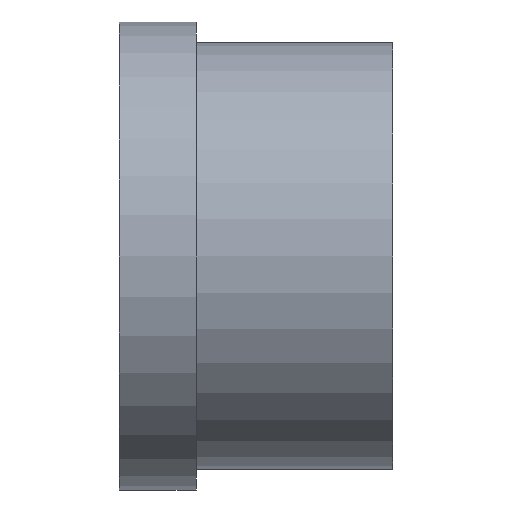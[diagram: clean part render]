
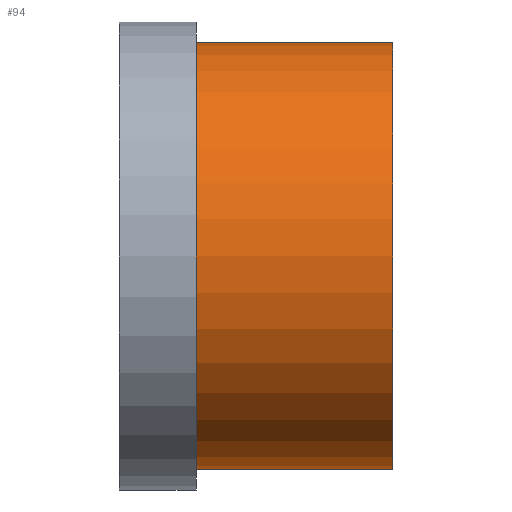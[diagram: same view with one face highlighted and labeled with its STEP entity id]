
A CAD part, front view. The second image highlights one B-rep face of the part: STEP entity #94.
In plain terms, the highlighted cylindrical face has radius 125 mm (diameter 250 mm), a full revolution.
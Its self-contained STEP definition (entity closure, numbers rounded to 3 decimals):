
#13=CYLINDRICAL_SURFACE($,#109,125.);
#23=FACE_BOUND($,#41,.T.);
#30=FACE_OUTER_BOUND($,#40,.T.);
#40=EDGE_LOOP($,(#75));
#41=EDGE_LOOP($,(#76));
#50=CIRCLE($,#108,125.);
#51=CIRCLE($,#110,125.);
#57=VERTEX_POINT($,#157);
#58=VERTEX_POINT($,#160);
#64=EDGE_CURVE($,#57,#57,#50,.T.);
#65=EDGE_CURVE($,#58,#58,#51,.T.);
#75=ORIENTED_EDGE($,*,*,#65,.F.);
#76=ORIENTED_EDGE($,*,*,#64,.T.);
#94=ADVANCED_FACE($,(#30,#23),#13,.T.);
#108=AXIS2_PLACEMENT_3D($,#158,#132,#133);
#109=AXIS2_PLACEMENT_3D($,#159,#134,#135);
#110=AXIS2_PLACEMENT_3D($,#161,#136,#137);
#132=DIRECTION('center_axis',(1.,0.,0.));
#133=DIRECTION('ref_axis',(0.,1.,0.));
#134=DIRECTION('center_axis',(1.,0.,0.));
#135=DIRECTION('ref_axis',(0.,1.,0.));
#136=DIRECTION('center_axis',(1.,0.,0.));
#137=DIRECTION('ref_axis',(0.,1.,0.));
#157=CARTESIAN_POINT('',(45.,125.,0.));
#158=CARTESIAN_POINT('Origin',(45.,0.,0.));
#159=CARTESIAN_POINT('Origin',(102.5,0.,0.));
#160=CARTESIAN_POINT('',(160.,125.,0.));
#161=CARTESIAN_POINT('Origin',(160.,0.,0.));
